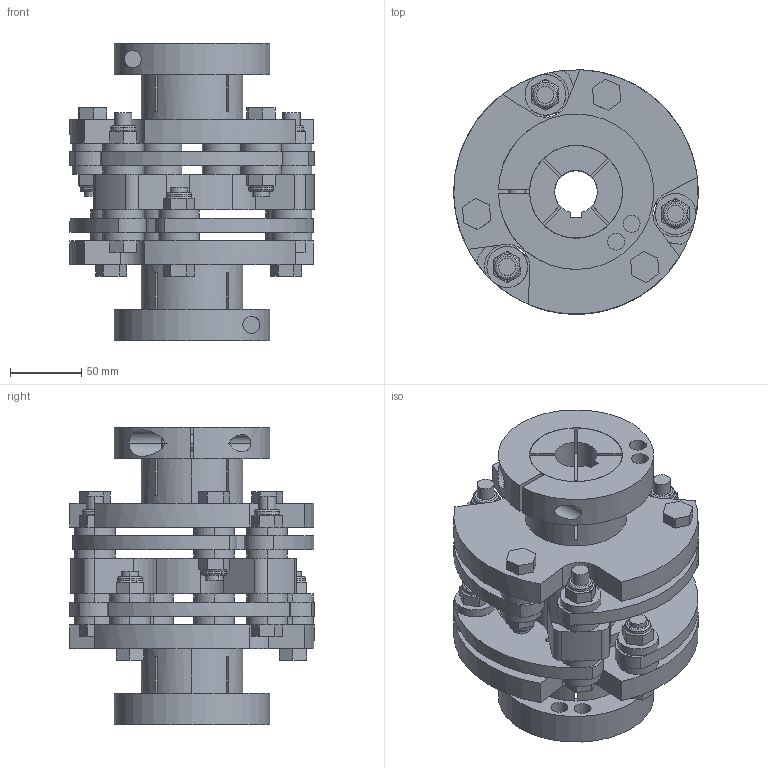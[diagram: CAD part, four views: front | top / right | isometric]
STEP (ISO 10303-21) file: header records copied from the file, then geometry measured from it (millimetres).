
FILE_DESCRIPTION((''),'2;1');
FILE_NAME('67','2024-04-11T12:55:09',('Administrator'),(''),'CREO PARAMETRIC BY PTC INC, 2019030','CREO PARAMETRIC BY PTC INC, 2019030','');
FILE_SCHEMA(('AUTOMOTIVE_DESIGN { 1 0 10303 214 1 1 1 1 }'));
Length unit declared in the file: inch
Products named in the file (1): 67
Bounding box: 171.41 x 171.41 x 208.38 mm (x, y, z)
Volume: 1803019.8 mm3; surface area: 384953.8 mm2
Topology: 1 solids, 10 shells, 637 faces, 1917 edges, 1398 vertices
Faces by surface type: plane 349, cylinder 248, torus 40
Entity records: 29224 total; most frequent: CARTESIAN_POINT 4381, DIRECTION 3951, ORIENTED_EDGE 3648, PRESENTATION_STYLE_ASSIGNMENT 2011, STYLED_ITEM 1931, CURVE_STYLE 1918, EDGE_CURVE 1824, AXIS2_PLACEMENT_3D 1473
